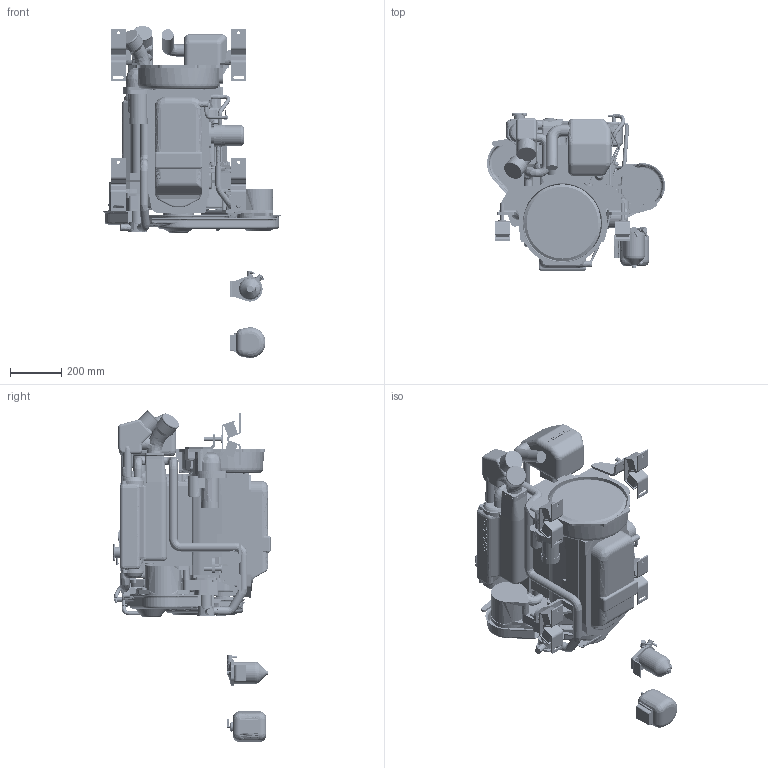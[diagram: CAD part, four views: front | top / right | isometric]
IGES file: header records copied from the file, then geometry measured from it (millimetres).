
Start section: Elysium IGES Interface
Global section: file name: C:\_OH CADenZO\Yanmar\Final Drawings R2009\JH5E-serie\4JH5E-serie\3D Drawing Workfile\JH5_4JH5ExBOBTAIL_R2009-01.igs; native system: CoCreate Modeling 16.00D  29-May-2009; preprocessor: CoCreate IGES_3D V2.2; author: Unknown; organization: Unknown; date: 20100312.134104; units: millimetre
Bounding box: 695.43 x 613.6 x 1296.72 mm (x, y, z)
Volume: 87427450.7 mm3; surface area: 5891641.9 mm2
Topology: 48 solids, 48 shells, 4651 faces, 12362 edges, 7929 vertices
Faces by surface type: bspline 4651
